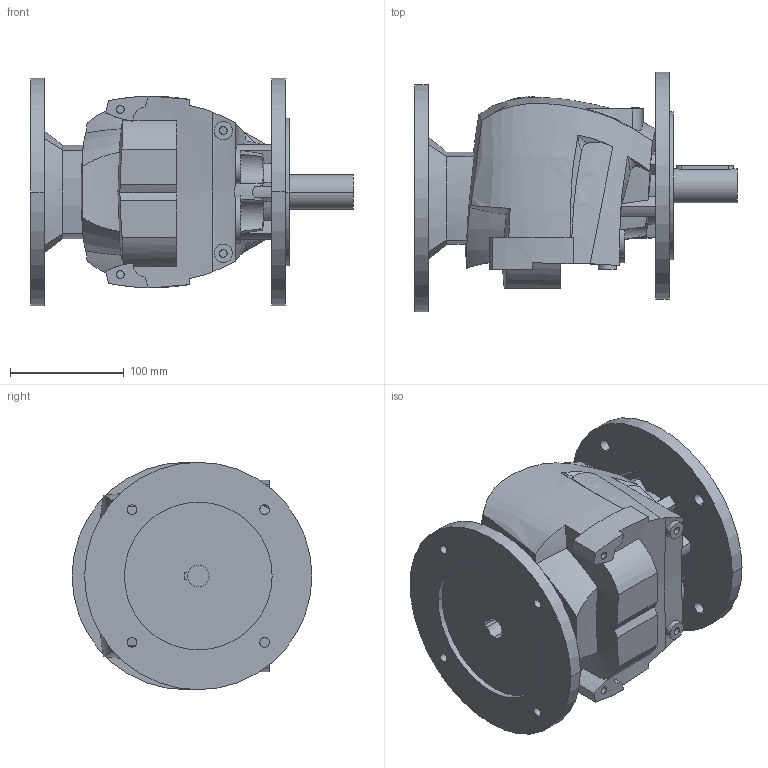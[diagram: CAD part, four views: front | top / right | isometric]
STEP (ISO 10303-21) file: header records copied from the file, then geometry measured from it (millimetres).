
FILE_DESCRIPTION((''),'2;1');
FILE_NAME('R25_200_PAM80_D2','2013-12-18T',('Luca'),(''),'PRO/ENGINEER BY PARAMETRIC TECHNOLOGY CORPORATION, 2008230','PRO/ENGINEER BY PARAMETRIC TECHNOLOGY CORPORATION, 2008230','');
FILE_SCHEMA(('CONFIG_CONTROL_DESIGN'));
Length unit declared in the file: millimetre
Products named in the file (1): R25_200_PAM80_D2
Bounding box: 284 x 211 x 200 mm (x, y, z)
Volume: 3852717.9 mm3; surface area: 276198.2 mm2
Topology: 1 solids, 7 shells, 408 faces, 1083 edges, 721 vertices
Faces by surface type: plane 149, cylinder 129, bspline 112, cone 12, torus 6
Entity records: 18454 total; most frequent: CARTESIAN_POINT 9098, ORIENTED_EDGE 2162, DIRECTION 1541, EDGE_CURVE 1081, VERTEX_POINT 721, AXIS2_PLACEMENT_3D 544, EDGE_LOOP 458, VECTOR 453
